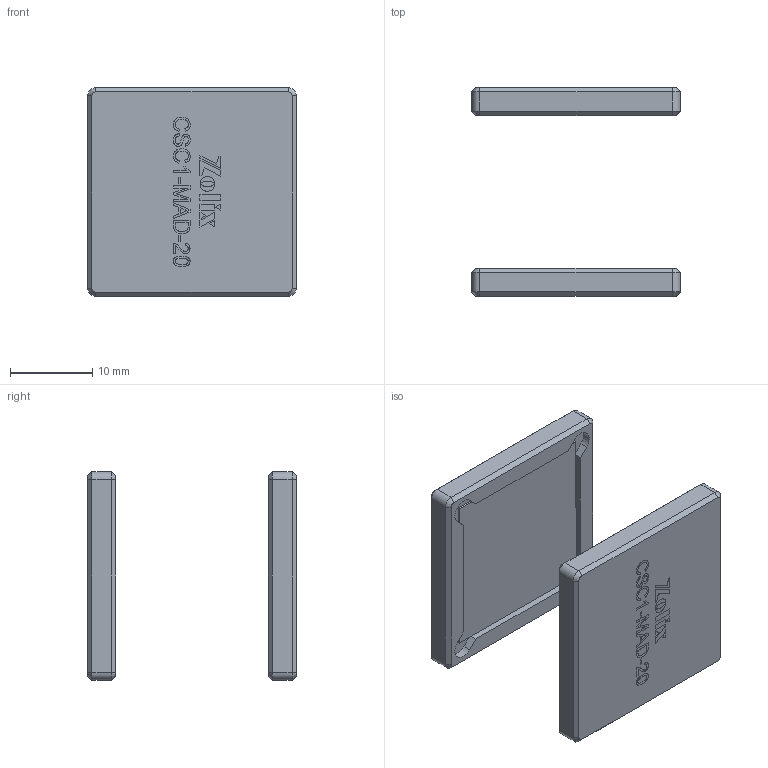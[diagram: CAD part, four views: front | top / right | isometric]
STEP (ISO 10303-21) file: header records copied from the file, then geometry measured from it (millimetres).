
FILE_DESCRIPTION (( 'STEP AP203' ), '1' );
FILE_NAME ('CSC1-MAD-20.STEP', '2024-03-28T03:20:06', ( '' ), ( '' ), 'SwSTEP 2.0', 'SolidWorks 2021', '' );
FILE_SCHEMA (( 'CONFIG_CONTROL_DESIGN' ));
Length unit declared in the file: millimetre
Products named in the file (1): CSC1-MAD-20
Bounding box: 25.4 x 25.4 x 25.4 mm (x, y, z)
Surface area: 4176.7 mm2 (no closed solid volume)
Topology: 0 solids, 6 shells, 298 faces, 1504 edges, 1176 vertices
Faces by surface type: plane 212, bspline 50, cylinder 20, cone 16
Entity records: 19818 total; most frequent: CARTESIAN_POINT 8845, ORIENTED_EDGE 2104, DIRECTION 1806, EDGE_CURVE 1504, LINE 1196, VECTOR 1196, VERTEX_POINT 1176, EDGE_LOOP 348
